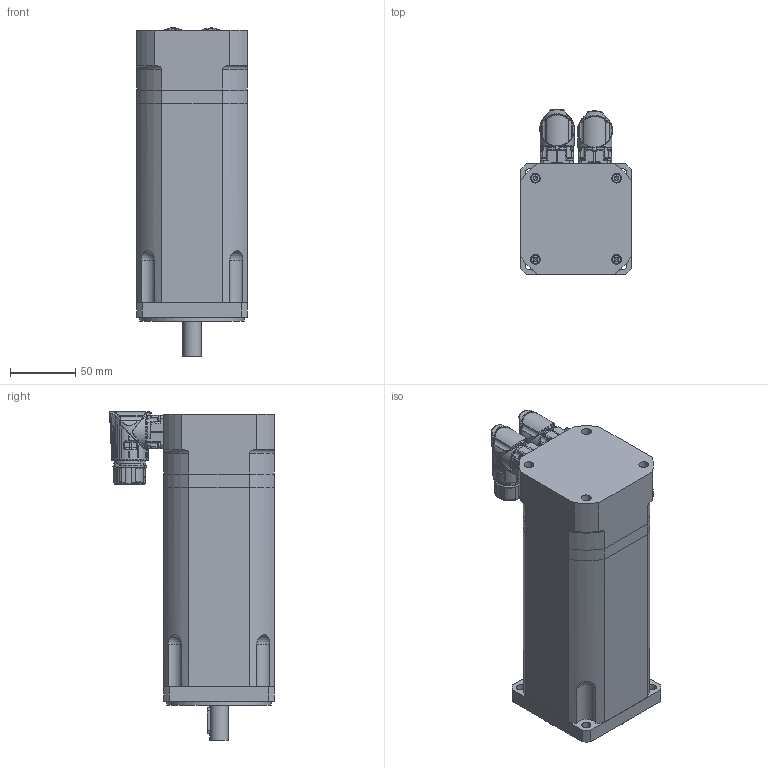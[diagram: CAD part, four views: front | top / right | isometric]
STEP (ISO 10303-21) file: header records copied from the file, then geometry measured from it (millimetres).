
FILE_DESCRIPTION(/* description */ (''),/* implementation_level */ '2;1');
FILE_NAME(/* name */ 'C:\Users\Public\Documents\Autodesk\Inventor LT 2014\Workspace\TG3\DSM5_3x_xxx7\DSM5_34_xxx7.stp',/* time_stamp */ '2016-04-28T10:18:45+02:00',/* author */ ('motion'),/* organization */ (''),/* preprocessor_version */ 'ST-DEVELOPER v15.2',/* originating_system */ 'Autodesk Inventor LT ',/* authorisation */ '');
FILE_SCHEMA (('AUTOMOTIVE_DESIGN { 1 0 10303 214 3 1 1 }'));
Products named in the file (1): DSM5_34_xxx7
Bounding box: 85 x 126.43 x 251.81 mm (x, y, z)
Volume: 1535641.9 mm3; surface area: 152449 mm2
Topology: 15 solids, 17 shells, 3061 faces, 7703 edges, 4630 vertices
Faces by surface type: cylinder 880, bspline 853, plane 596, torus 382, cone 229, sphere 121
Full cylindrical faces by diameter (mm): 1.2 x17, 2 x6, 2.15 x6, 2.224 x8, 2.5 x8, 2.7 x8, 3 x1, 4 x8, 4.134 x1, 4.5 x2, 5 x4, 5.5 x3, 5.9 x2, 7 x12, 7.2 x4, 7.5 x4, 14 x1, 15 x1, 15.2 x1, 19.1 x1, 21.6 x1, 22.5 x1, 23 x2, 24.4 x1, 28 x1, 35 x2, 60 x1, 80 x1
Entity records: 189383 total; most frequent: CARTESIAN_POINT 120010, ORIENTED_EDGE 14494, DIRECTION 12705, EDGE_CURVE 7247, AXIS2_PLACEMENT_3D 5470, VERTEX_POINT 4541, EDGE_LOOP 3460, ADVANCED_FACE 3057
